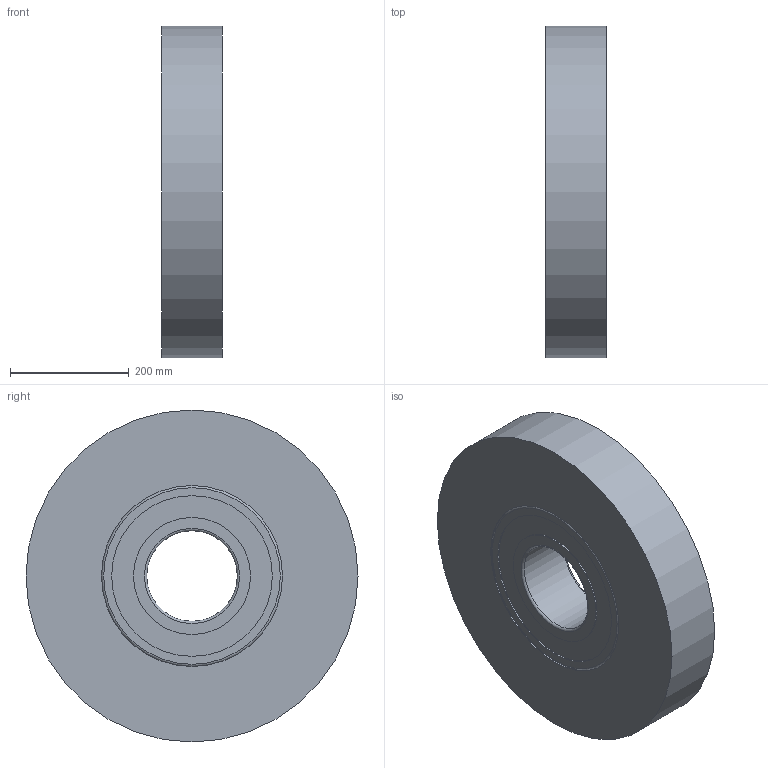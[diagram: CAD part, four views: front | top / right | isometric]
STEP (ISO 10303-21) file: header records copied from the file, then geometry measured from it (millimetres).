
FILE_DESCRIPTION((''),'1');
FILE_NAME('H:/図庫/国内ﾕﾆｯﾄ/ｶﾀﾛｸﾞ/ｺﾞﾑ直巻/ホームページ用ＣＡＤ図面/update用/3', '2017-07-14T09:05:08',(''), (''), 'KCM Version 1.1.1442.0', 'Kubotek KeyCreator', '');
FILE_SCHEMA(('AUTOMOTIVE_DESIGN'));
Length unit declared in the file: inch
Bounding box: 101.6 x 558.8 x 558.8 mm (x, y, z)
Surface area: 698369.2 mm2 (no closed solid volume)
Topology: 0 solids, 20 shells, 20 faces, 68 edges, 56 vertices
Faces by surface type: plane 8, cylinder 8, torus 4
Full cylindrical faces by diameter (mm): 152.4 x1, 196.85 x2, 270.51 x2, 304.8 x2, 558.8 x1
Entity records: 790 total; most frequent: DIRECTION 154, CARTESIAN_POINT 137, ORIENTED_EDGE 80, AXIS2_PLACEMENT_3D 73, EDGE_CURVE 68, VERTEX_POINT 56, CIRCLE 52, EDGE_LOOP 28
